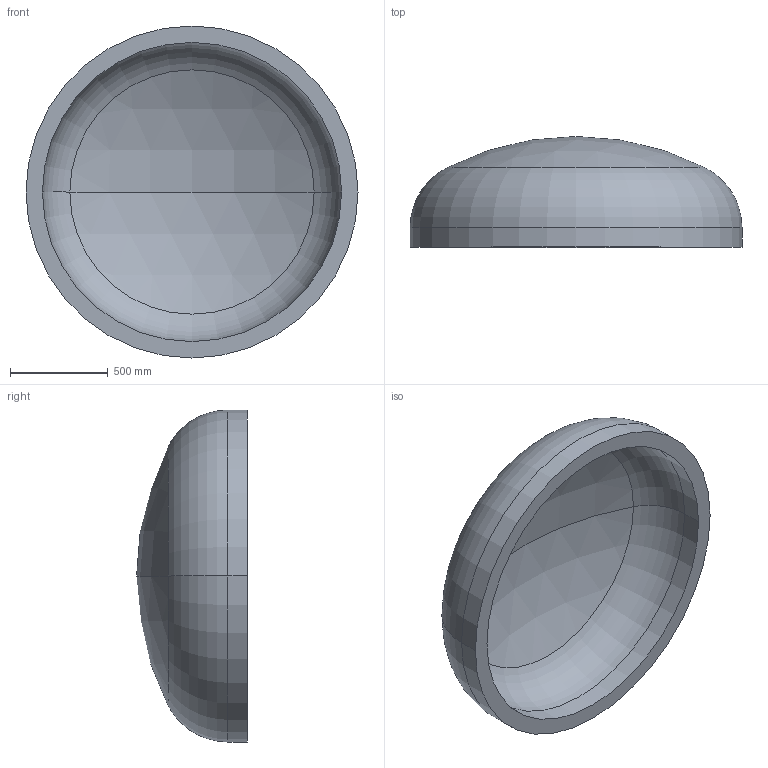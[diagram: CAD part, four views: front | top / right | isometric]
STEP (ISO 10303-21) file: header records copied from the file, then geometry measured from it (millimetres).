
FILE_DESCRIPTION (( 'STEP AP203' ), '1' );
FILE_NAME ('DIN 28013 Korbbogenform_-_Boden DIN 28013 - 1700 x 100 - I - s=84.step', '2016-07-01T12:04:11', ( '' ), ( '' ), 'SwSTEP 2.0', 'SolidWorks 2013', '' );
FILE_SCHEMA (( 'CONFIG_CONTROL_DESIGN' ));
Length unit declared in the file: millimetre
Products named in the file (1): DIN 28013 Korbbogenform_-_Boden DIN 28013 - 1700 x 100 - I - s=84
Bounding box: 1700 x 567.29 x 1700 mm (x, y, z)
Volume: 290108852.7 mm3; surface area: 7348582.2 mm2
Topology: 1 solids, 1 shells, 13 faces, 24 edges, 14 vertices
Faces by surface type: torus 4, cylinder 4, sphere 4, plane 1
Entity records: 407 total; most frequent: DIRECTION 72, CARTESIAN_POINT 52, ORIENTED_EDGE 48, AXIS2_PLACEMENT_3D 34, EDGE_CURVE 24, CIRCLE 20, VERTEX_POINT 14, EDGE_LOOP 14
